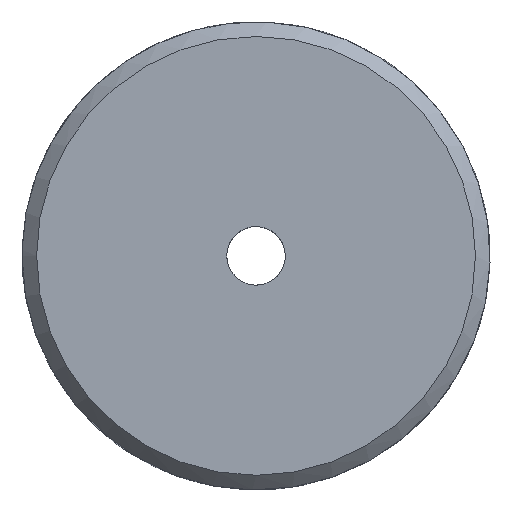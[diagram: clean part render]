
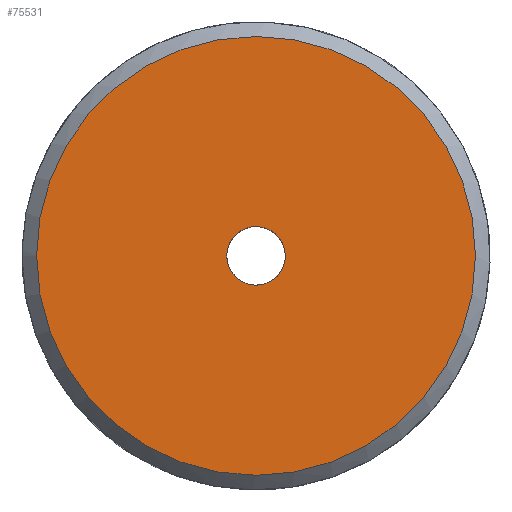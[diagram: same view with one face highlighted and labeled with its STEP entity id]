
A CAD part, left-side view. The second image highlights one B-rep face of the part: STEP entity #75531.
In plain terms, the highlighted planar face has unit normal (-1, 0, 0).
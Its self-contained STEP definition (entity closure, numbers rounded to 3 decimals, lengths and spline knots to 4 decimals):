
#21527=PLANE('',#74575);
#27778=ORIENTED_EDGE('',*,*,#29903,.F.);
#27779=ORIENTED_EDGE('',*,*,#32051,.F.);
#27781=CIRCLE('',#73197,7.5);
#28471=CIRCLE('',#74574,1.);
#28473=VERTEX_POINT('',#36281);
#29901=VERTEX_POINT('',#73190);
#29903=EDGE_CURVE('',#28473,#28473,#27781,.T.);
#32051=EDGE_CURVE('',#29901,#29901,#28471,.T.);
#32780=EDGE_LOOP('',(#27778));
#32781=EDGE_LOOP('',(#27779));
#33510=FACE_BOUND('',#32780,.T.);
#33511=FACE_BOUND('',#32781,.T.);
#33516=DIRECTION('',(1.,0.,0.));
#33517=DIRECTION('',(0.,0.,-7.5));
#36270=DIRECTION('',(-1.,0.,0.));
#36271=DIRECTION('',(0.,-1.,0.));
#36272=DIRECTION('',(-1.,0.,0.));
#36273=DIRECTION('',(0.,1.,0.));
#36281=CARTESIAN_POINT('',(23.4029,166.9623,-7.5));
#36282=CARTESIAN_POINT('',(23.4029,166.9623,0.));
#73190=CARTESIAN_POINT('',(23.4029,165.9623,0.));
#73191=CARTESIAN_POINT('',(23.4029,166.9623,0.));
#73192=CARTESIAN_POINT('',(23.4029,166.9623,-7.5));
#73197=AXIS2_PLACEMENT_3D('',#36282,#33516,#33517);
#74574=AXIS2_PLACEMENT_3D('',#73191,#36270,#36271);
#74575=AXIS2_PLACEMENT_3D('',#73192,#36272,#36273);
#75531=ADVANCED_FACE('',(#33510,#33511),#21527,.T.);
